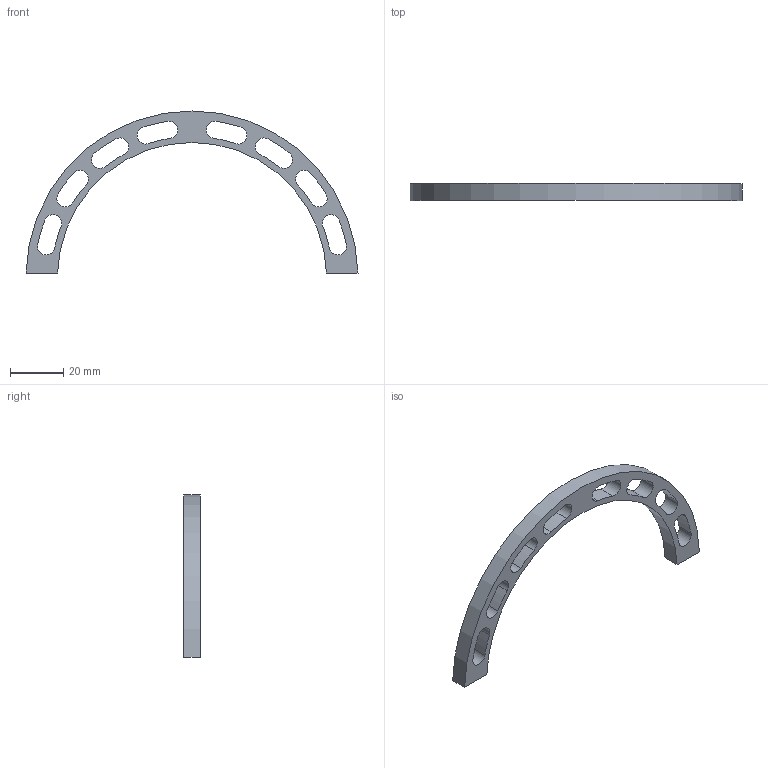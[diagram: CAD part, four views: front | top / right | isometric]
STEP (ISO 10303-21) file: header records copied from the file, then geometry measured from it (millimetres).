
FILE_DESCRIPTION(/* description */ (''),/* implementation_level */ '2;1');
FILE_NAME(/* name */ '2504_ePic_arc_L1.stp',/* time_stamp */ '2025-05-05T16:40:38+02:00',/* author */ (''),/* organization */ (''),/* preprocessor_version */ 'ST-DEVELOPER v19.4',/* originating_system */ 'SIEMENS PLM Software NX2306.5001',/* authorisation */ '');
FILE_SCHEMA (('AP203_CONFIGURATION_CONTROLLED_3D_DESIGN_OF_MECHANICAL_PARTS_AND_ASSEMBLIES_MIM_LF { 1 0 10303 403 2 1 2}'));
Length unit declared in the file: millimetre
Products named in the file (1): ePic-L1_HalfRingsSensor&Longerons.v1-Ring_dwg_objects
Bounding box: 124.76 x 6.35 x 60.9 mm (x, y, z)
Volume: 8464 mm3; surface area: 6984.3 mm2
Topology: 1 solids, 1 shells, 38 faces, 108 edges, 72 vertices
Faces by surface type: cylinder 34, plane 4
Entity records: 1398 total; most frequent: DIRECTION 254, CARTESIAN_POINT 219, ORIENTED_EDGE 216, EDGE_CURVE 108, AXIS2_PLACEMENT_3D 107, VERTEX_POINT 72, CIRCLE 68, EDGE_LOOP 54
